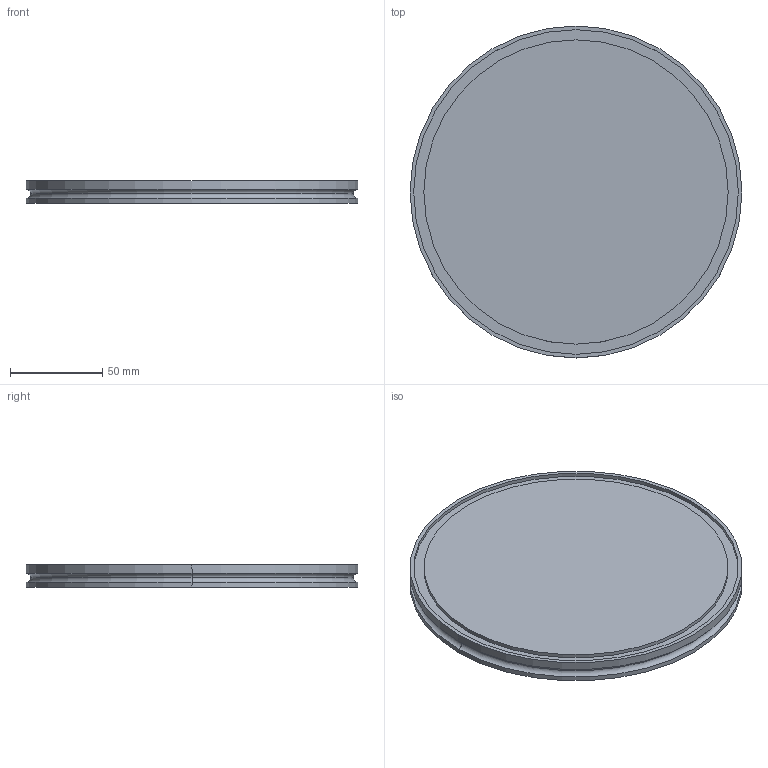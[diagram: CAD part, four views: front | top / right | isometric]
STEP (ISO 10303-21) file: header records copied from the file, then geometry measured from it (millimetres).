
FILE_DESCRIPTION((''),'2;1');
FILE_NAME('W:\212-013.stp','2004-01-07T13:34:13',('KAA'),(''),'Autodesk Inventor (R) 6.0','Autodesk Inventor (R) 6.0','');
FILE_SCHEMA(('CONFIG_CONTROL_DESIGN'));
Length unit declared in the file: millimetre
Products named in the file (1): 212-013
Bounding box: 180 x 180 x 12 mm (x, y, z)
Volume: 283523 mm3; surface area: 65542.2 mm2
Topology: 1 solids, 1 shells, 22 faces, 42 edges, 26 vertices
Faces by surface type: cylinder 12, plane 6, torus 4
Entity records: 663 total; most frequent: DIRECTION 118, CARTESIAN_POINT 91, ORIENTED_EDGE 84, AXIS2_PLACEMENT_3D 53, EDGE_CURVE 42, CIRCLE 30, VERTEX_POINT 26, EDGE_LOOP 26
